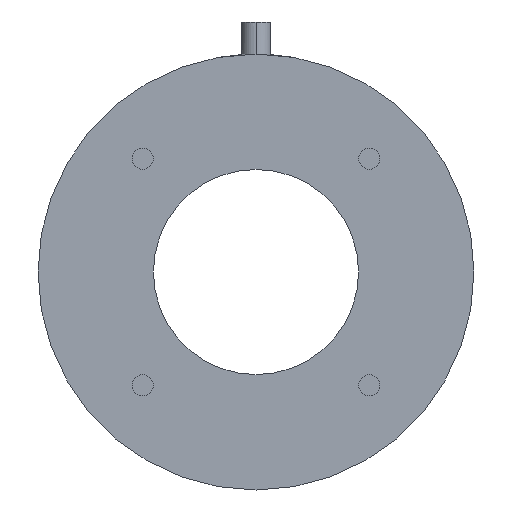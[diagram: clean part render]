
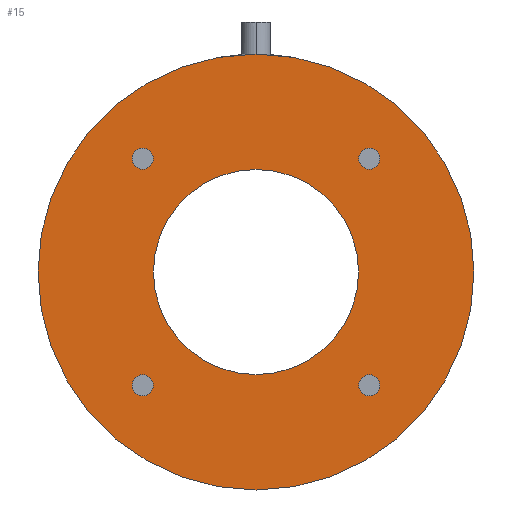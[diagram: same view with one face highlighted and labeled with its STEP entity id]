
A CAD part, front view. The second image highlights one B-rep face of the part: STEP entity #15.
In plain terms, the highlighted planar face has unit normal (0, -1, 0).
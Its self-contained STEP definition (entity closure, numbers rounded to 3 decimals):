
#4 = AXIS2_PLACEMENT_3D ( 'NONE', #327, #450, #657 ) ;
#5 = DIRECTION ( 'NONE',  ( 0., 0., 1. ) ) ;
#10 = CARTESIAN_POINT ( 'NONE',  ( 0., 0., 0. ) ) ;
#12 = ORIENTED_EDGE ( 'NONE', *, *, #232, .T. ) ;
#15 = ADVANCED_FACE ( 'NONE', ( #89, #372, #639, #635, #437, #698 ), #224, .F. ) ;
#17 = ORIENTED_EDGE ( 'NONE', *, *, #640, .T. ) ;
#31 = CARTESIAN_POINT ( 'NONE',  ( 0., 0., 0. ) ) ;
#44 = AXIS2_PLACEMENT_3D ( 'NONE', #861, #452, #59 ) ;
#46 = EDGE_LOOP ( 'NONE', ( #362, #857 ) ) ;
#59 = DIRECTION ( 'NONE',  ( 0., 0., 1. ) ) ;
#63 = ORIENTED_EDGE ( 'NONE', *, *, #760, .T. ) ;
#72 = DIRECTION ( 'NONE',  ( 0., 0., 1. ) ) ;
#75 = CARTESIAN_POINT ( 'NONE',  ( 17.678, 0., -17.678 ) ) ;
#79 = DIRECTION ( 'NONE',  ( 0., 1., 0. ) ) ;
#81 = VERTEX_POINT ( 'NONE', #400 ) ;
#89 = FACE_BOUND ( 'NONE', #633, .T. ) ;
#106 = EDGE_CURVE ( 'NONE', #545, #81, #424, .T. ) ;
#108 = CARTESIAN_POINT ( 'NONE',  ( 0., 0., 16. ) ) ;
#131 = AXIS2_PLACEMENT_3D ( 'NONE', #10, #841, #72 ) ;
#132 = CARTESIAN_POINT ( 'NONE',  ( 17.678, 0., -16.028 ) ) ;
#150 = CARTESIAN_POINT ( 'NONE',  ( 17.678, 0., 19.328 ) ) ;
#156 = EDGE_LOOP ( 'NONE', ( #510, #179 ) ) ;
#179 = ORIENTED_EDGE ( 'NONE', *, *, #393, .F. ) ;
#181 = CIRCLE ( 'NONE', #241, 1.65 ) ;
#184 = CARTESIAN_POINT ( 'NONE',  ( -17.678, 0., 17.678 ) ) ;
#186 = CIRCLE ( 'NONE', #618, 1.65 ) ;
#192 = EDGE_CURVE ( 'NONE', #81, #545, #486, .T. ) ;
#193 = CARTESIAN_POINT ( 'NONE',  ( -17.678, 0., -19.328 ) ) ;
#219 = CARTESIAN_POINT ( 'NONE',  ( -17.678, 0., -17.678 ) ) ;
#224 = PLANE ( 'NONE',  #580 ) ;
#232 = EDGE_CURVE ( 'NONE', #377, #750, #186, .T. ) ;
#237 = DIRECTION ( 'NONE',  ( 0., 1., 0. ) ) ;
#241 = AXIS2_PLACEMENT_3D ( 'NONE', #881, #324, #403 ) ;
#254 = CIRCLE ( 'NONE', #388, 1.65 ) ;
#259 = CARTESIAN_POINT ( 'NONE',  ( 17.678, 0., 17.678 ) ) ;
#261 = DIRECTION ( 'NONE',  ( 0., 0., 1. ) ) ;
#274 = ORIENTED_EDGE ( 'NONE', *, *, #775, .T. ) ;
#286 = EDGE_LOOP ( 'NONE', ( #274, #339 ) ) ;
#288 = AXIS2_PLACEMENT_3D ( 'NONE', #517, #237, #727 ) ;
#310 = EDGE_CURVE ( 'NONE', #576, #550, #565, .T. ) ;
#313 = DIRECTION ( 'NONE',  ( 0., 1., 0. ) ) ;
#324 = DIRECTION ( 'NONE',  ( 0., 1., 0. ) ) ;
#327 = CARTESIAN_POINT ( 'NONE',  ( 17.678, 0., 17.678 ) ) ;
#329 = CARTESIAN_POINT ( 'NONE',  ( -17.678, 0., 17.678 ) ) ;
#339 = ORIENTED_EDGE ( 'NONE', *, *, #355, .T. ) ;
#343 = VERTEX_POINT ( 'NONE', #787 ) ;
#348 = ORIENTED_EDGE ( 'NONE', *, *, #800, .T. ) ;
#355 = EDGE_CURVE ( 'NONE', #503, #491, #636, .T. ) ;
#360 = CARTESIAN_POINT ( 'NONE',  ( -17.678, 0., 16.028 ) ) ;
#362 = ORIENTED_EDGE ( 'NONE', *, *, #106, .T. ) ;
#366 = CARTESIAN_POINT ( 'NONE',  ( 0., 0., 0. ) ) ;
#372 = FACE_BOUND ( 'NONE', #286, .T. ) ;
#377 = VERTEX_POINT ( 'NONE', #471 ) ;
#378 = DIRECTION ( 'NONE',  ( 0., 0., 1. ) ) ;
#379 = AXIS2_PLACEMENT_3D ( 'NONE', #259, #79, #622 ) ;
#385 = AXIS2_PLACEMENT_3D ( 'NONE', #184, #660, #883 ) ;
#388 = AXIS2_PLACEMENT_3D ( 'NONE', #329, #600, #730 ) ;
#393 = EDGE_CURVE ( 'NONE', #550, #576, #795, .T. ) ;
#400 = CARTESIAN_POINT ( 'NONE',  ( 17.678, 0., 16.028 ) ) ;
#403 = DIRECTION ( 'NONE',  ( 0., 0., 1. ) ) ;
#404 = CIRCLE ( 'NONE', #509, 1.65 ) ;
#413 = VERTEX_POINT ( 'NONE', #193 ) ;
#424 = CIRCLE ( 'NONE', #4, 1.65 ) ;
#437 = FACE_OUTER_BOUND ( 'NONE', #156, .T. ) ;
#450 = DIRECTION ( 'NONE',  ( 0., 1., 0. ) ) ;
#452 = DIRECTION ( 'NONE',  ( 0., 1., 0. ) ) ;
#467 = DIRECTION ( 'NONE',  ( 0., 1., 0. ) ) ;
#471 = CARTESIAN_POINT ( 'NONE',  ( 17.678, 0., -19.328 ) ) ;
#476 = CARTESIAN_POINT ( 'NONE',  ( 0., 0., 34. ) ) ;
#478 = CIRCLE ( 'NONE', #131, 16. ) ;
#486 = CIRCLE ( 'NONE', #379, 1.65 ) ;
#491 = VERTEX_POINT ( 'NONE', #696 ) ;
#495 = ORIENTED_EDGE ( 'NONE', *, *, #766, .T. ) ;
#503 = VERTEX_POINT ( 'NONE', #360 ) ;
#509 = AXIS2_PLACEMENT_3D ( 'NONE', #219, #891, #678 ) ;
#510 = ORIENTED_EDGE ( 'NONE', *, *, #310, .F. ) ;
#517 = CARTESIAN_POINT ( 'NONE',  ( 0., 0., 0. ) ) ;
#522 = EDGE_CURVE ( 'NONE', #343, #648, #478, .T. ) ;
#535 = CIRCLE ( 'NONE', #827, 16. ) ;
#545 = VERTEX_POINT ( 'NONE', #150 ) ;
#550 = VERTEX_POINT ( 'NONE', #476 ) ;
#562 = CARTESIAN_POINT ( 'NONE',  ( 0., 0., -34. ) ) ;
#565 = CIRCLE ( 'NONE', #288, 34. ) ;
#566 = EDGE_LOOP ( 'NONE', ( #63, #12 ) ) ;
#576 = VERTEX_POINT ( 'NONE', #562 ) ;
#580 = AXIS2_PLACEMENT_3D ( 'NONE', #366, #769, #709 ) ;
#600 = DIRECTION ( 'NONE',  ( 0., 1., 0. ) ) ;
#601 = CARTESIAN_POINT ( 'NONE',  ( 0., 0., 0. ) ) ;
#606 = ORIENTED_EDGE ( 'NONE', *, *, #522, .T. ) ;
#618 = AXIS2_PLACEMENT_3D ( 'NONE', #75, #467, #5 ) ;
#622 = DIRECTION ( 'NONE',  ( 0., 0., 1. ) ) ;
#633 = EDGE_LOOP ( 'NONE', ( #348, #495 ) ) ;
#635 = FACE_BOUND ( 'NONE', #566, .T. ) ;
#636 = CIRCLE ( 'NONE', #385, 1.65 ) ;
#639 = FACE_BOUND ( 'NONE', #46, .T. ) ;
#640 = EDGE_CURVE ( 'NONE', #648, #343, #535, .T. ) ;
#648 = VERTEX_POINT ( 'NONE', #108 ) ;
#657 = DIRECTION ( 'NONE',  ( 0., 0., 1. ) ) ;
#660 = DIRECTION ( 'NONE',  ( 0., 1., 0. ) ) ;
#678 = DIRECTION ( 'NONE',  ( 0., 0., 1. ) ) ;
#696 = CARTESIAN_POINT ( 'NONE',  ( -17.678, 0., 19.328 ) ) ;
#698 = FACE_BOUND ( 'NONE', #780, .T. ) ;
#700 = DIRECTION ( 'NONE',  ( 0., 1., 0. ) ) ;
#709 = DIRECTION ( 'NONE',  ( 0., 0., 1. ) ) ;
#715 = VERTEX_POINT ( 'NONE', #782 ) ;
#727 = DIRECTION ( 'NONE',  ( 0., 0., 1. ) ) ;
#730 = DIRECTION ( 'NONE',  ( 0., 0., 1. ) ) ;
#741 = CIRCLE ( 'NONE', #44, 1.65 ) ;
#750 = VERTEX_POINT ( 'NONE', #132 ) ;
#754 = AXIS2_PLACEMENT_3D ( 'NONE', #601, #313, #261 ) ;
#760 = EDGE_CURVE ( 'NONE', #750, #377, #181, .T. ) ;
#766 = EDGE_CURVE ( 'NONE', #413, #715, #741, .T. ) ;
#769 = DIRECTION ( 'NONE',  ( 0., 1., 0. ) ) ;
#775 = EDGE_CURVE ( 'NONE', #491, #503, #254, .T. ) ;
#780 = EDGE_LOOP ( 'NONE', ( #606, #17 ) ) ;
#782 = CARTESIAN_POINT ( 'NONE',  ( -17.678, 0., -16.028 ) ) ;
#787 = CARTESIAN_POINT ( 'NONE',  ( 0., 0., -16. ) ) ;
#795 = CIRCLE ( 'NONE', #754, 34. ) ;
#800 = EDGE_CURVE ( 'NONE', #715, #413, #404, .T. ) ;
#827 = AXIS2_PLACEMENT_3D ( 'NONE', #31, #700, #378 ) ;
#841 = DIRECTION ( 'NONE',  ( 0., 1., 0. ) ) ;
#857 = ORIENTED_EDGE ( 'NONE', *, *, #192, .T. ) ;
#861 = CARTESIAN_POINT ( 'NONE',  ( -17.678, 0., -17.678 ) ) ;
#881 = CARTESIAN_POINT ( 'NONE',  ( 17.678, 0., -17.678 ) ) ;
#883 = DIRECTION ( 'NONE',  ( 0., 0., 1. ) ) ;
#891 = DIRECTION ( 'NONE',  ( 0., 1., 0. ) ) ;
